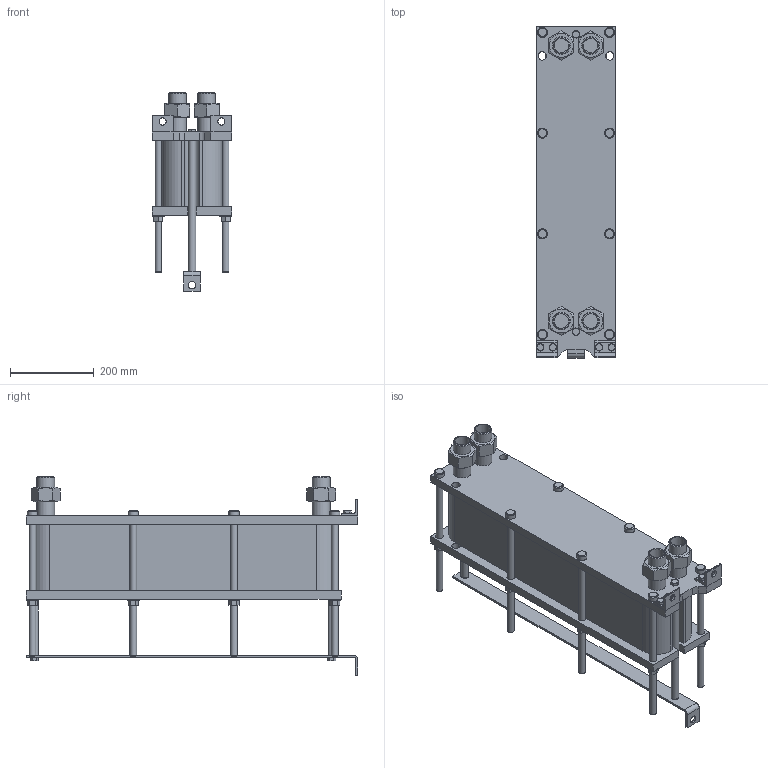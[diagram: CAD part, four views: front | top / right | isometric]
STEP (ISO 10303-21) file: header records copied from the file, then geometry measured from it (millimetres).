
FILE_DESCRIPTION(/* description */ (''),/* implementation_level */ '2;1');
FILE_NAME(/* name */ 'C:\Users\zhuro\Desktop\ENCO\TO\ЭН-008\ЭН-0,5-008-51-1.stp',/* time_stamp */ '2022-06-06T10:49:26+03:00',/* author */ ('zhuro'),/* organization */ (''),/* preprocessor_version */ 'ST-DEVELOPER v18.1',/* originating_system */ 'Autodesk Inventor 2022',/* authorisation */ '');
FILE_SCHEMA (('AUTOMOTIVE_DESIGN { 1 0 10303 214 3 1 1 }'));
Length unit declared in the file: millimetre
Products named in the file (1): ЭН-0,5-008-51-1
Bounding box: 190 x 790 x 473.8 mm (x, y, z)
Volume: 22880539.2 mm3; surface area: 1607042.1 mm2
Topology: 40 solids, 40 shells, 428 faces, 924 edges, 606 vertices
Faces by surface type: plane 273, cylinder 109, cone 40, torus 6
Full cylindrical faces by diameter (mm): 12 x6, 14 x2, 16 x20, 17 x8, 18 x19, 20 x5, 24 x8, 28 x8, 34.3 x8, 42.3 x8
Entity records: 15843 total; most frequent: CARTESIAN_POINT 5991, DIRECTION 1984, ORIENTED_EDGE 1848, EDGE_CURVE 924, AXIS2_PLACEMENT_3D 715, VERTEX_POINT 606, LINE 554, VECTOR 554
